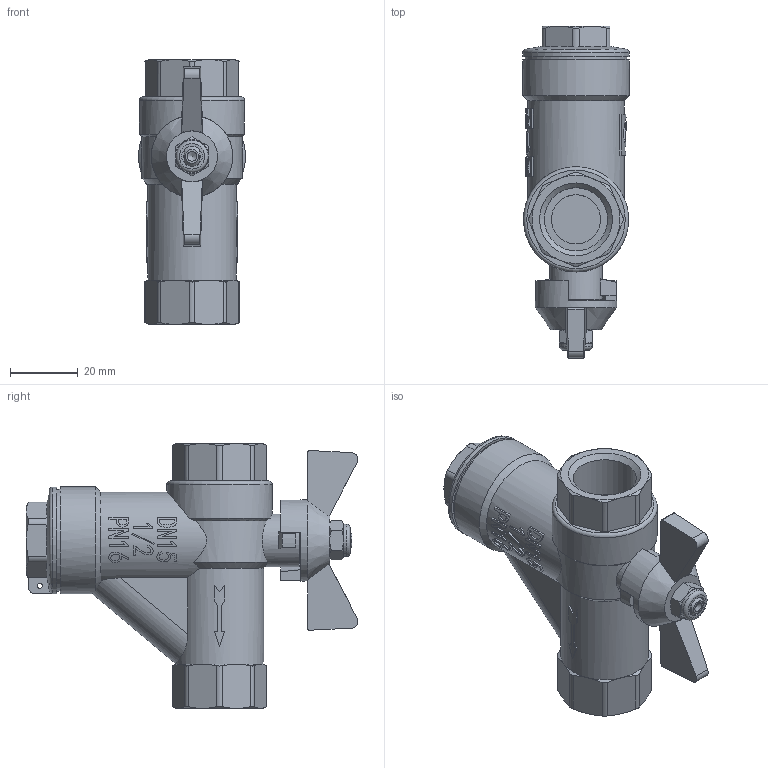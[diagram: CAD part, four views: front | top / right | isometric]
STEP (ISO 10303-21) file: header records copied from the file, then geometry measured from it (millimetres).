
FILE_DESCRIPTION(('STEP AP203'), '1');
FILE_NAME('VT.294.N.04', '2026-02-10T09:26:58', ('VerevichevVA'), ('Vesta'), 'C3D Converter', 'C3D Toolkit', '');
FILE_SCHEMA(('CONFIG_CONTROL_DESIGN'));
Length unit declared in the file: millimetre
Products named in the file (1): ВР.491812.037.000 СБ
Bounding box: 31.5 x 97.78 x 78 mm (x, y, z)
Volume: 70561 mm3; surface area: 20941.1 mm2
Topology: 1 solids, 3 shells, 616 faces, 1676 edges, 1094 vertices
Faces by surface type: plane 466, cylinder 89, cone 57, torus 4
Full cylindrical faces by diameter (mm): 1.5 x1, 6 x1, 9.5 x1, 13 x1, 14 x1, 14.5 x1, 15.5 x1, 18.632 x2, 24 x1, 26 x1, 30 x1, 31 x1, 31.5 x2
Entity records: 24349 total; most frequent: CARTESIAN_POINT 10801, ORIENTED_EDGE 3300, DIRECTION 2343, EDGE_CURVE 1650, VERTEX_POINT 1092, AXIS2_PLACEMENT_3D 856, EDGE_LOOP 672, FACE_BOUND 640
